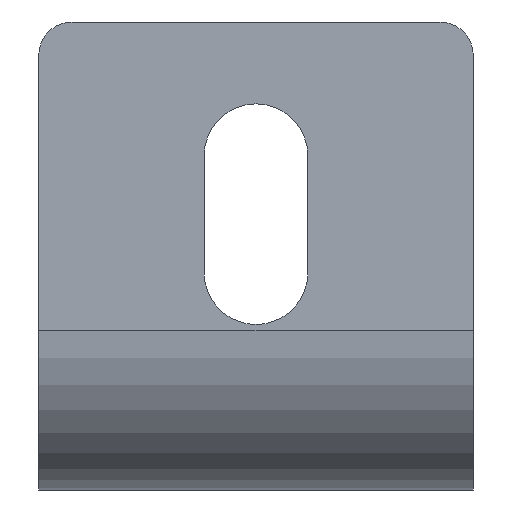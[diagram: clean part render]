
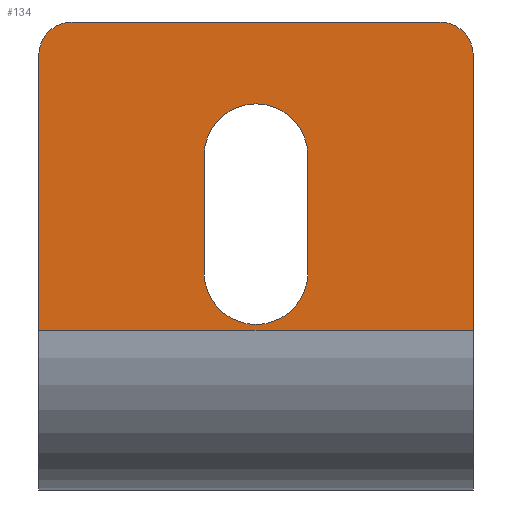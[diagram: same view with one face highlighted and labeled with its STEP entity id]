
A CAD part, front view. The second image highlights one B-rep face of the part: STEP entity #134.
In plain terms, the highlighted planar face has unit normal (0, -1, 0).
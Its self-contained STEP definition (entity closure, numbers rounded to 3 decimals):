
#16 = CIRCLE ( 'NONE', #572, 2. ) ;
#19 = ORIENTED_EDGE ( 'NONE', *, *, #75, .T. ) ;
#20 = ORIENTED_EDGE ( 'NONE', *, *, #601, .T. ) ;
#21 = EDGE_CURVE ( 'NONE', #361, #866, #147, .T. ) ;
#35 = CARTESIAN_POINT ( 'NONE',  ( -3.217, -14.803, 13. ) ) ;
#39 = VERTEX_POINT ( 'NONE', #548 ) ;
#41 = CARTESIAN_POINT ( 'NONE',  ( 7.783, -14.803, 26. ) ) ;
#73 = DIRECTION ( 'NONE',  ( 0., 0., 1. ) ) ;
#75 = EDGE_CURVE ( 'NONE', #246, #785, #286, .T. ) ;
#76 = ORIENTED_EDGE ( 'NONE', *, *, #21, .T. ) ;
#113 = DIRECTION ( 'NONE',  ( 0., 0., 1. ) ) ;
#116 = EDGE_LOOP ( 'NONE', ( #20, #193, #804, #76, #750 ) ) ;
#117 = DIRECTION ( 'NONE',  ( 0., 0., -1. ) ) ;
#124 = AXIS2_PLACEMENT_3D ( 'NONE', #35, #511, #113 ) ;
#134 = ADVANCED_FACE ( 'NONE', ( #394, #672 ), #729, .T. ) ;
#147 = CIRCLE ( 'NONE', #746, 3.1 ) ;
#158 = ORIENTED_EDGE ( 'NONE', *, *, #161, .F. ) ;
#161 = EDGE_CURVE ( 'NONE', #39, #559, #465, .T. ) ;
#175 = CARTESIAN_POINT ( 'NONE',  ( -6.317, -14.803, 28. ) ) ;
#183 = ORIENTED_EDGE ( 'NONE', *, *, #841, .F. ) ;
#190 = EDGE_LOOP ( 'NONE', ( #500, #183, #19, #420, #760, #158 ) ) ;
#192 = EDGE_CURVE ( 'NONE', #866, #501, #635, .T. ) ;
#193 = ORIENTED_EDGE ( 'NONE', *, *, #796, .T. ) ;
#204 = CARTESIAN_POINT ( 'NONE',  ( -16.217, -14.803, 9.56 ) ) ;
#205 = DIRECTION ( 'NONE',  ( 0., 0., -1. ) ) ;
#209 = VERTEX_POINT ( 'NONE', #661 ) ;
#216 = CARTESIAN_POINT ( 'NONE',  ( -6.317, -14.803, 20. ) ) ;
#228 = CARTESIAN_POINT ( 'NONE',  ( -16.217, -14.803, 9.56 ) ) ;
#246 = VERTEX_POINT ( 'NONE', #456 ) ;
#269 = CARTESIAN_POINT ( 'NONE',  ( -14.217, -14.803, 26. ) ) ;
#270 = CIRCLE ( 'NONE', #124, 3.1 ) ;
#286 = LINE ( 'NONE', #673, #644 ) ;
#289 = VECTOR ( 'NONE', #417, 1000. ) ;
#329 = DIRECTION ( 'NONE',  ( 0., 0., -1. ) ) ;
#337 = DIRECTION ( 'NONE',  ( 0., 0., -1. ) ) ;
#345 = CARTESIAN_POINT ( 'NONE',  ( 9.783, -14.803, 26. ) ) ;
#346 = VECTOR ( 'NONE', #205, 1000. ) ;
#353 = VERTEX_POINT ( 'NONE', #345 ) ;
#361 = VERTEX_POINT ( 'NONE', #216 ) ;
#383 = CARTESIAN_POINT ( 'NONE',  ( -16.217, -14.803, 26. ) ) ;
#394 = FACE_BOUND ( 'NONE', #116, .T. ) ;
#417 = DIRECTION ( 'NONE',  ( -1., 0., 0. ) ) ;
#420 = ORIENTED_EDGE ( 'NONE', *, *, #879, .F. ) ;
#436 = AXIS2_PLACEMENT_3D ( 'NONE', #41, #516, #117 ) ;
#453 = EDGE_CURVE ( 'NONE', #624, #559, #698, .T. ) ;
#456 = CARTESIAN_POINT ( 'NONE',  ( 7.783, -14.803, 28. ) ) ;
#457 = CARTESIAN_POINT ( 'NONE',  ( -3.217, -14.803, 20. ) ) ;
#465 = LINE ( 'NONE', #228, #289 ) ;
#476 = CARTESIAN_POINT ( 'NONE',  ( -0.117, -14.803, 28. ) ) ;
#500 = ORIENTED_EDGE ( 'NONE', *, *, #563, .F. ) ;
#501 = VERTEX_POINT ( 'NONE', #514 ) ;
#505 = DIRECTION ( 'NONE',  ( 0., -1., 0. ) ) ;
#506 = CARTESIAN_POINT ( 'NONE',  ( -16.217, -14.803, 28. ) ) ;
#511 = DIRECTION ( 'NONE',  ( 0., 1., 0. ) ) ;
#514 = CARTESIAN_POINT ( 'NONE',  ( -0.117, -14.803, 20. ) ) ;
#516 = DIRECTION ( 'NONE',  ( 0., 1., 0. ) ) ;
#520 = CARTESIAN_POINT ( 'NONE',  ( -3.217, -14.803, 23.1 ) ) ;
#543 = CARTESIAN_POINT ( 'NONE',  ( -3.217, -14.803, 20. ) ) ;
#548 = CARTESIAN_POINT ( 'NONE',  ( 9.783, -14.803, 9.56 ) ) ;
#556 = VECTOR ( 'NONE', #337, 1000. ) ;
#559 = VERTEX_POINT ( 'NONE', #204 ) ;
#563 = EDGE_CURVE ( 'NONE', #353, #39, #735, .T. ) ;
#569 = AXIS2_PLACEMENT_3D ( 'NONE', #457, #659, #664 ) ;
#572 = AXIS2_PLACEMENT_3D ( 'NONE', #269, #741, #329 ) ;
#574 = VECTOR ( 'NONE', #578, 1000. ) ;
#577 = CARTESIAN_POINT ( 'NONE',  ( -16.217, -14.803, 28. ) ) ;
#578 = DIRECTION ( 'NONE',  ( 0., 0., -1. ) ) ;
#601 = EDGE_CURVE ( 'NONE', #501, #209, #711, .T. ) ;
#618 = DIRECTION ( 'NONE',  ( -1., 0., 0. ) ) ;
#621 = CARTESIAN_POINT ( 'NONE',  ( 9.783, -14.803, 28. ) ) ;
#624 = VERTEX_POINT ( 'NONE', #383 ) ;
#635 = CIRCLE ( 'NONE', #569, 3.1 ) ;
#644 = VECTOR ( 'NONE', #618, 1000. ) ;
#645 = DIRECTION ( 'NONE',  ( 0., 0., -1. ) ) ;
#649 = CARTESIAN_POINT ( 'NONE',  ( -14.217, -14.803, 28. ) ) ;
#659 = DIRECTION ( 'NONE',  ( 0., 1., 0. ) ) ;
#661 = CARTESIAN_POINT ( 'NONE',  ( -0.117, -14.803, 13. ) ) ;
#662 = DIRECTION ( 'NONE',  ( 0., 0., 1. ) ) ;
#664 = DIRECTION ( 'NONE',  ( 0., 0., 1. ) ) ;
#672 = FACE_OUTER_BOUND ( 'NONE', #190, .T. ) ;
#673 = CARTESIAN_POINT ( 'NONE',  ( -16.217, -14.803, 28. ) ) ;
#698 = LINE ( 'NONE', #506, #574 ) ;
#701 = AXIS2_PLACEMENT_3D ( 'NONE', #577, #505, #645 ) ;
#703 = VECTOR ( 'NONE', #662, 1000. ) ;
#711 = LINE ( 'NONE', #476, #346 ) ;
#729 = PLANE ( 'NONE',  #701 ) ;
#735 = LINE ( 'NONE', #621, #556 ) ;
#741 = DIRECTION ( 'NONE',  ( 0., 1., 0. ) ) ;
#746 = AXIS2_PLACEMENT_3D ( 'NONE', #543, #818, #73 ) ;
#747 = CIRCLE ( 'NONE', #436, 2. ) ;
#750 = ORIENTED_EDGE ( 'NONE', *, *, #192, .T. ) ;
#760 = ORIENTED_EDGE ( 'NONE', *, *, #453, .T. ) ;
#785 = VERTEX_POINT ( 'NONE', #649 ) ;
#796 = EDGE_CURVE ( 'NONE', #209, #887, #270, .T. ) ;
#804 = ORIENTED_EDGE ( 'NONE', *, *, #868, .T. ) ;
#812 = CARTESIAN_POINT ( 'NONE',  ( -6.317, -14.803, 13. ) ) ;
#818 = DIRECTION ( 'NONE',  ( 0., 1., 0. ) ) ;
#841 = EDGE_CURVE ( 'NONE', #246, #353, #747, .T. ) ;
#866 = VERTEX_POINT ( 'NONE', #520 ) ;
#868 = EDGE_CURVE ( 'NONE', #887, #361, #882, .T. ) ;
#879 = EDGE_CURVE ( 'NONE', #624, #785, #16, .T. ) ;
#882 = LINE ( 'NONE', #175, #703 ) ;
#887 = VERTEX_POINT ( 'NONE', #812 ) ;
